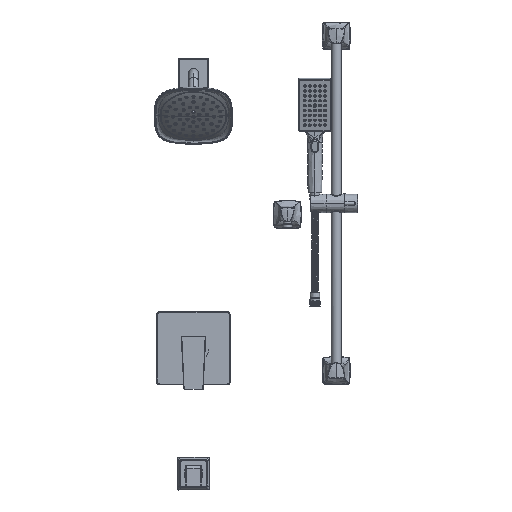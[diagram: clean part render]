
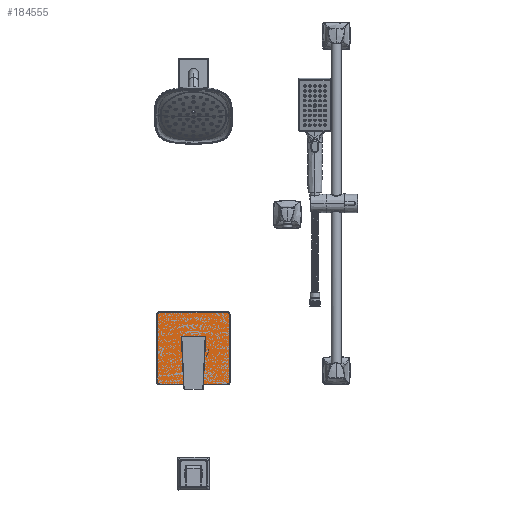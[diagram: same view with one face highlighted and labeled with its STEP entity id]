
A CAD part, top view. The second image highlights one B-rep face of the part: STEP entity #184555.
In plain terms, the highlighted planar face has unit normal (0, 0, 1).
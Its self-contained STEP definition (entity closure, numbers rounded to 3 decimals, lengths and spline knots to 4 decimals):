
#4749 = ORIENTED_EDGE ( 'NONE', *, *, #75174, .T. ) ;
#4816 = FACE_BOUND ( 'NONE', #133281, .T. ) ;
#10306 = CIRCLE ( 'NONE', #245220, 0.125 ) ;
#11028 = DIRECTION ( 'NONE',  ( 1., 0., 0. ) ) ;
#12648 = CIRCLE ( 'NONE', #186578, 0.17 ) ;
#15035 = CARTESIAN_POINT ( 'NONE',  ( 3.045, 2.875, 0.48 ) ) ;
#17101 = CARTESIAN_POINT ( 'NONE',  ( 2.875, 2.875, 0.48 ) ) ;
#18648 = VECTOR ( 'NONE', #121303, 39.3701 ) ;
#19095 = EDGE_CURVE ( 'NONE', #118688, #139290, #218013, .T. ) ;
#22825 = CARTESIAN_POINT ( 'NONE',  ( 3.045, -2.875, 0.48 ) ) ;
#27862 = ORIENTED_EDGE ( 'NONE', *, *, #78165, .F. ) ;
#28876 = DIRECTION ( 'NONE',  ( 1., 0., 0. ) ) ;
#29907 = CIRCLE ( 'NONE', #204012, 0.17 ) ;
#37365 = DIRECTION ( 'NONE',  ( 1., 0., 0. ) ) ;
#37736 = CARTESIAN_POINT ( 'NONE',  ( 2.875, -3.045, 0.48 ) ) ;
#40372 = ORIENTED_EDGE ( 'NONE', *, *, #120430, .T. ) ;
#40698 = VERTEX_POINT ( 'NONE', #120257 ) ;
#40752 = EDGE_CURVE ( 'NONE', #148017, #118688, #179219, .T. ) ;
#42055 = AXIS2_PLACEMENT_3D ( 'NONE', #44145, #202556, #28876 ) ;
#44145 = CARTESIAN_POINT ( 'NONE',  ( 2.875, -2.875, 0.48 ) ) ;
#45545 = CARTESIAN_POINT ( 'NONE',  ( 0.125, -1.0179, 0.48 ) ) ;
#56976 = CARTESIAN_POINT ( 'NONE',  ( 0., 0., 0.48 ) ) ;
#61434 = AXIS2_PLACEMENT_3D ( 'NONE', #56976, #192635, #173587 ) ;
#69675 = EDGE_CURVE ( 'NONE', #168510, #178181, #10306, .T. ) ;
#71062 = CARTESIAN_POINT ( 'NONE',  ( -0.125, -1.27, 0.48 ) ) ;
#75174 = EDGE_CURVE ( 'NONE', #155853, #40698, #211950, .T. ) ;
#75865 = ORIENTED_EDGE ( 'NONE', *, *, #132435, .F. ) ;
#78165 = EDGE_CURVE ( 'NONE', #178181, #179243, #160715, .T. ) ;
#80868 = PLANE ( 'NONE',  #237704 ) ;
#84295 = CIRCLE ( 'NONE', #181490, 0.17 ) ;
#84575 = DIRECTION ( 'NONE',  ( 0., 0., 1. ) ) ;
#85463 = EDGE_CURVE ( 'NONE', #139290, #238918, #29907, .T. ) ;
#85831 = CARTESIAN_POINT ( 'NONE',  ( 0., -1.27, 0.48 ) ) ;
#86198 = ORIENTED_EDGE ( 'NONE', *, *, #19095, .T. ) ;
#89808 = EDGE_CURVE ( 'NONE', #226059, #168510, #169547, .T. ) ;
#92204 = ORIENTED_EDGE ( 'NONE', *, *, #96192, .T. ) ;
#94168 = VECTOR ( 'NONE', #172677, 39.3701 ) ;
#94713 = DIRECTION ( 'NONE',  ( 0., -1., 0. ) ) ;
#96154 = FACE_OUTER_BOUND ( 'NONE', #195888, .T. ) ;
#96192 = EDGE_CURVE ( 'NONE', #173894, #148017, #102282, .T. ) ;
#97416 = DIRECTION ( 'NONE',  ( 1., 0., 0. ) ) ;
#99097 = CARTESIAN_POINT ( 'NONE',  ( -3.045, 2.875, 0.48 ) ) ;
#102282 = LINE ( 'NONE', #158079, #18648 ) ;
#113464 = DIRECTION ( 'NONE',  ( 0., 0., 1. ) ) ;
#113788 = CARTESIAN_POINT ( 'NONE',  ( -0.125, -1.0179, 0.48 ) ) ;
#114392 = LINE ( 'NONE', #191720, #94168 ) ;
#116082 = ORIENTED_EDGE ( 'NONE', *, *, #136794, .T. ) ;
#118688 = VERTEX_POINT ( 'NONE', #201915 ) ;
#120257 = CARTESIAN_POINT ( 'NONE',  ( -3.045, -2.875, 0.48 ) ) ;
#120430 = EDGE_CURVE ( 'NONE', #40698, #173894, #84295, .T. ) ;
#121303 = DIRECTION ( 'NONE',  ( 1., 0., 0. ) ) ;
#132435 = EDGE_CURVE ( 'NONE', #179243, #226059, #231567, .T. ) ;
#133281 = EDGE_LOOP ( 'NONE', ( #230876, #75865, #27862, #249929 ) ) ;
#134011 = CARTESIAN_POINT ( 'NONE',  ( -0.125, -1.27, 0.48 ) ) ;
#136696 = CARTESIAN_POINT ( 'NONE',  ( -2.875, -2.875, 0.48 ) ) ;
#136794 = EDGE_CURVE ( 'NONE', #238918, #245799, #114392, .T. ) ;
#138024 = CARTESIAN_POINT ( 'NONE',  ( 2.875, 3.045, 0.48 ) ) ;
#138653 = VECTOR ( 'NONE', #235814, 39.3701 ) ;
#139290 = VERTEX_POINT ( 'NONE', #15035 ) ;
#141734 = ORIENTED_EDGE ( 'NONE', *, *, #85463, .T. ) ;
#147780 = CARTESIAN_POINT ( 'NONE',  ( -2.875, 2.875, 0.48 ) ) ;
#148017 = VERTEX_POINT ( 'NONE', #37736 ) ;
#155648 = ORIENTED_EDGE ( 'NONE', *, *, #40752, .T. ) ;
#155726 = DIRECTION ( 'NONE',  ( 0., 0., 1. ) ) ;
#155853 = VERTEX_POINT ( 'NONE', #99097 ) ;
#156890 = DIRECTION ( 'NONE',  ( 0., 0., 1. ) ) ;
#158079 = CARTESIAN_POINT ( 'NONE',  ( -2.875, -3.045, 0.48 ) ) ;
#160715 = LINE ( 'NONE', #220289, #180977 ) ;
#163978 = VECTOR ( 'NONE', #94713, 39.3701 ) ;
#168510 = VERTEX_POINT ( 'NONE', #71062 ) ;
#168892 = CARTESIAN_POINT ( 'NONE',  ( -3.045, -2.875, 0.48 ) ) ;
#169293 = DIRECTION ( 'NONE',  ( 0., 0., 1. ) ) ;
#169547 = LINE ( 'NONE', #134011, #163978 ) ;
#172626 = DIRECTION ( 'NONE',  ( 0., -1., 0. ) ) ;
#172677 = DIRECTION ( 'NONE',  ( -1., 0., 0. ) ) ;
#173587 = DIRECTION ( 'NONE',  ( 1., 0., 0. ) ) ;
#173894 = VERTEX_POINT ( 'NONE', #218201 ) ;
#178181 = VERTEX_POINT ( 'NONE', #204489 ) ;
#179219 = CIRCLE ( 'NONE', #42055, 0.17 ) ;
#179243 = VERTEX_POINT ( 'NONE', #45545 ) ;
#180977 = VECTOR ( 'NONE', #182233, 39.3701 ) ;
#181490 = AXIS2_PLACEMENT_3D ( 'NONE', #192426, #156890, #234243 ) ;
#182233 = DIRECTION ( 'NONE',  ( 0., 1., 0. ) ) ;
#184555 = ADVANCED_FACE ( 'NONE', ( #4816, #96154 ), #80868, .T. ) ;
#186578 = AXIS2_PLACEMENT_3D ( 'NONE', #147780, #169293, #223883 ) ;
#191720 = CARTESIAN_POINT ( 'NONE',  ( -2.875, 3.045, 0.48 ) ) ;
#192426 = CARTESIAN_POINT ( 'NONE',  ( -2.875, -2.875, 0.48 ) ) ;
#192635 = DIRECTION ( 'NONE',  ( 0., 0., 1. ) ) ;
#195888 = EDGE_LOOP ( 'NONE', ( #235211, #4749, #40372, #92204, #155648, #86198, #141734, #116082 ) ) ;
#200683 = CARTESIAN_POINT ( 'NONE',  ( -2.875, 3.045, 0.48 ) ) ;
#201915 = CARTESIAN_POINT ( 'NONE',  ( 3.045, -2.875, 0.48 ) ) ;
#202556 = DIRECTION ( 'NONE',  ( 0., 0., 1. ) ) ;
#204012 = AXIS2_PLACEMENT_3D ( 'NONE', #17101, #113464, #37365 ) ;
#204489 = CARTESIAN_POINT ( 'NONE',  ( 0.125, -1.27, 0.48 ) ) ;
#209079 = VECTOR ( 'NONE', #172626, 39.3701 ) ;
#211950 = LINE ( 'NONE', #168892, #209079 ) ;
#218013 = LINE ( 'NONE', #22825, #138653 ) ;
#218201 = CARTESIAN_POINT ( 'NONE',  ( -2.875, -3.045, 0.48 ) ) ;
#218653 = EDGE_CURVE ( 'NONE', #245799, #155853, #12648, .T. ) ;
#220289 = CARTESIAN_POINT ( 'NONE',  ( 0.125, -0.9535, 0.48 ) ) ;
#223883 = DIRECTION ( 'NONE',  ( 1., 0., 0. ) ) ;
#226059 = VERTEX_POINT ( 'NONE', #113788 ) ;
#230876 = ORIENTED_EDGE ( 'NONE', *, *, #89808, .F. ) ;
#231567 = CIRCLE ( 'NONE', #61434, 1.0255 ) ;
#234243 = DIRECTION ( 'NONE',  ( 1., 0., 0. ) ) ;
#235211 = ORIENTED_EDGE ( 'NONE', *, *, #218653, .T. ) ;
#235814 = DIRECTION ( 'NONE',  ( 0., 1., 0. ) ) ;
#237704 = AXIS2_PLACEMENT_3D ( 'NONE', #136696, #155726, #97416 ) ;
#238918 = VERTEX_POINT ( 'NONE', #138024 ) ;
#245220 = AXIS2_PLACEMENT_3D ( 'NONE', #85831, #84575, #11028 ) ;
#245799 = VERTEX_POINT ( 'NONE', #200683 ) ;
#249929 = ORIENTED_EDGE ( 'NONE', *, *, #69675, .F. ) ;
